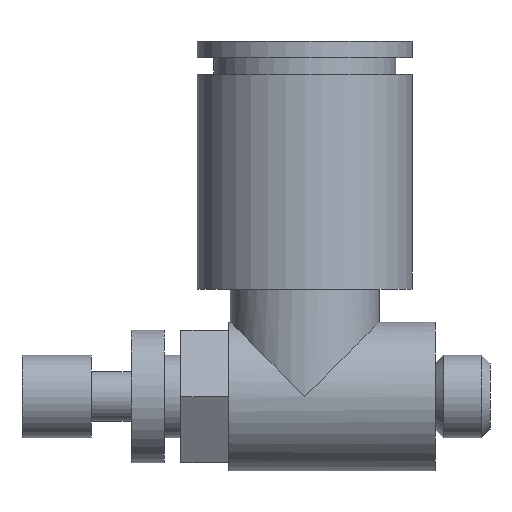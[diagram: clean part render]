
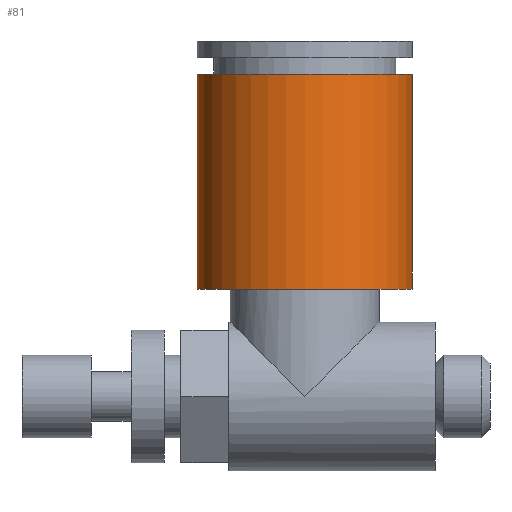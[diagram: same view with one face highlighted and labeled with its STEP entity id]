
A CAD part, left-side view. The second image highlights one B-rep face of the part: STEP entity #81.
In plain terms, the highlighted cylindrical face has radius 6.5 mm (diameter 13 mm), a partial arc.
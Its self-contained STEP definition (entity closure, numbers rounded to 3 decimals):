
#81 = ADVANCED_FACE( '', ( #144 ), #145, .T. );
#144 = FACE_OUTER_BOUND( '', #265, .T. );
#145 = CYLINDRICAL_SURFACE( '', #266, 6.5 );
#265 = EDGE_LOOP( '', ( #425, #426, #427, #428 ) );
#266 = AXIS2_PLACEMENT_3D( '', #429, #430, #431 );
#425 = ORIENTED_EDGE( '', *, *, #811, .F. );
#426 = ORIENTED_EDGE( '', *, *, #812, .T. );
#427 = ORIENTED_EDGE( '', *, *, #813, .F. );
#428 = ORIENTED_EDGE( '', *, *, #814, .F. );
#429 = CARTESIAN_POINT( '', ( 0., 7.9, 13. ) );
#430 = DIRECTION( '', ( 0., 0., -1. ) );
#431 = DIRECTION( '', ( 0., 1., 0. ) );
#811 = EDGE_CURVE( '', #959, #960, #961, .T. );
#812 = EDGE_CURVE( '', #959, #962, #963, .T. );
#813 = EDGE_CURVE( '', #964, #962, #965, .T. );
#814 = EDGE_CURVE( '', #960, #964, #966, .T. );
#959 = VERTEX_POINT( '', #1165 );
#960 = VERTEX_POINT( '', #1166 );
#961 = LINE( '', #1167, #1168 );
#962 = VERTEX_POINT( '', #1169 );
#963 = CIRCLE( '', #1170, 6.5 );
#964 = VERTEX_POINT( '', #1171 );
#965 = LINE( '', #1172, #1173 );
#966 = CIRCLE( '', #1174, 6.5 );
#1165 = CARTESIAN_POINT( '', ( 0., 14.4, 6.5 ) );
#1166 = CARTESIAN_POINT( '', ( 0., 14.4, 19.5 ) );
#1167 = CARTESIAN_POINT( '', ( 0., 14.4, 13. ) );
#1168 = VECTOR( '', #1409, 1. );
#1169 = CARTESIAN_POINT( '', ( 0., 1.4, 6.5 ) );
#1170 = AXIS2_PLACEMENT_3D( '', #1410, #1411, #1412 );
#1171 = CARTESIAN_POINT( '', ( 0., 1.4, 19.5 ) );
#1172 = CARTESIAN_POINT( '', ( 0., 1.4, 13. ) );
#1173 = VECTOR( '', #1413, 1. );
#1174 = AXIS2_PLACEMENT_3D( '', #1414, #1415, #1416 );
#1409 = DIRECTION( '', ( 0., 0., 1. ) );
#1410 = CARTESIAN_POINT( '', ( 0., 7.9, 6.5 ) );
#1411 = DIRECTION( '', ( 0., 0., 1. ) );
#1412 = DIRECTION( '', ( 0., 1., 0. ) );
#1413 = DIRECTION( '', ( 0., 0., -1. ) );
#1414 = CARTESIAN_POINT( '', ( 0., 7.9, 19.5 ) );
#1415 = DIRECTION( '', ( 0., 0., 1. ) );
#1416 = DIRECTION( '', ( 0., 1., 0. ) );
